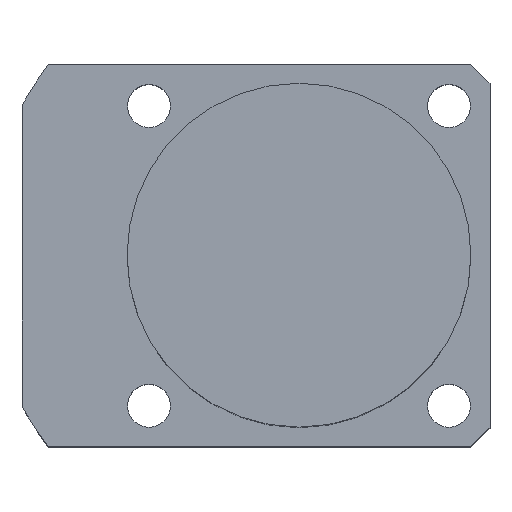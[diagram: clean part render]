
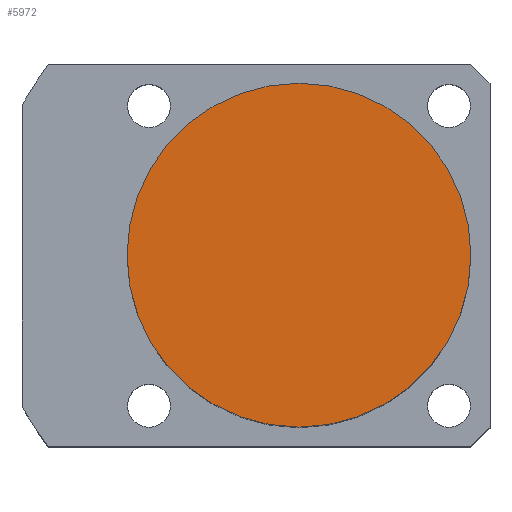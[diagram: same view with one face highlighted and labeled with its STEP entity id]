
A CAD part, top view. The second image highlights one B-rep face of the part: STEP entity #5972.
In plain terms, the highlighted planar face has unit normal (0, 0, 1).
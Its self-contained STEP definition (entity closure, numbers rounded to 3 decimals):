
#5916=CARTESIAN_POINT('',(0.0,-18.0,48.5));
#5917=VERTEX_POINT('',#5916);
#5924=CARTESIAN_POINT('',(-0.0,18.0,48.5));
#5925=VERTEX_POINT('',#5924);
#5926=CARTESIAN_POINT('',(0.0,0.0,48.5));
#5927=DIRECTION('',(0.0,0.0,1.0));
#5928=DIRECTION('',(1.0,0.0,0.0));
#5929=AXIS2_PLACEMENT_3D('',#5926,#5927,#5928);
#5930=CIRCLE('',#5929,18.0);
#5931=EDGE_CURVE('no 3768',#5925,#5917,#5930,.T.);
#5948=CARTESIAN_POINT('',(18.0,0.0,48.5));
#5949=VERTEX_POINT('',#5948);
#5950=CARTESIAN_POINT('',(0.0,0.0,48.5));
#5951=DIRECTION('',(0.0,0.0,1.0));
#5952=DIRECTION('',(1.0,0.0,0.0));
#5953=AXIS2_PLACEMENT_3D('',#5950,#5951,#5952);
#5954=CIRCLE('',#5953,18.0);
#5955=EDGE_CURVE('no 3783',#5949,#5925,#5954,.T.);
#5956=ORIENTED_EDGE('',*,*,#5955,.T.);
#5957=ORIENTED_EDGE('',*,*,#5931,.T.);
#5958=CARTESIAN_POINT('',(0.0,0.0,48.5));
#5959=DIRECTION('',(0.0,0.0,1.0));
#5960=DIRECTION('',(1.0,0.0,0.0));
#5961=AXIS2_PLACEMENT_3D('',#5958,#5959,#5960);
#5962=CIRCLE('',#5961,18.0);
#5963=EDGE_CURVE('no 3789',#5917,#5949,#5962,.T.);
#5964=ORIENTED_EDGE('',*,*,#5963,.T.);
#5965=EDGE_LOOP('',(#5956,#5957,#5964));
#5966=FACE_OUTER_BOUND('',#5965,.T.);
#5967=CARTESIAN_POINT('',(0.0,0.0,48.5));
#5968=DIRECTION('',(0.0,0.0,1.0));
#5969=DIRECTION('',(1.0,0.0,0.0));
#5970=AXIS2_PLACEMENT_3D('',#5967,#5968,#5969);
#5971=PLANE('',#5970);
#5972=ADVANCED_FACE('no 3776',(#5966),#5971,.T.);
